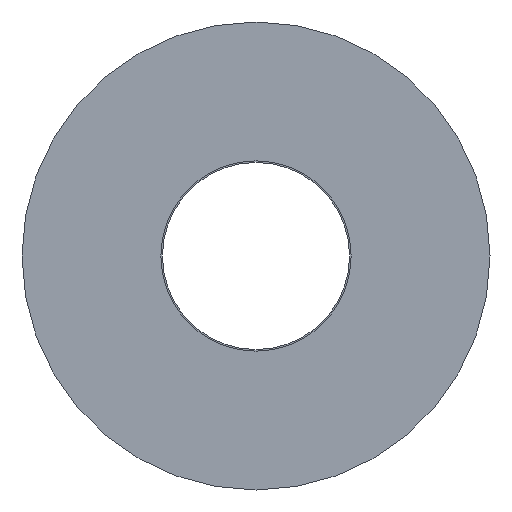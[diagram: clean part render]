
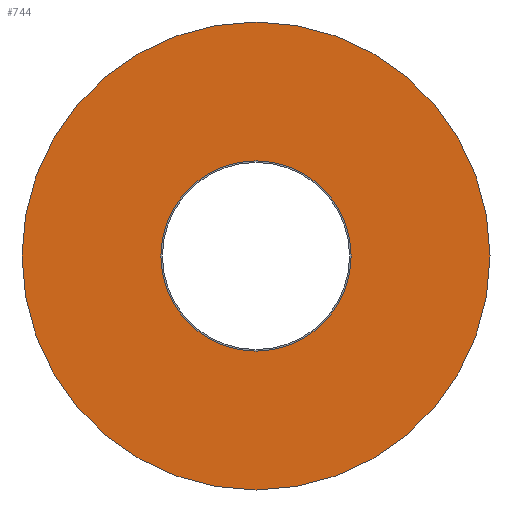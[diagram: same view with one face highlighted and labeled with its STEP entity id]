
A CAD part, left-side view. The second image highlights one B-rep face of the part: STEP entity #744.
In plain terms, the highlighted planar face has unit normal (-1, 0, 0).
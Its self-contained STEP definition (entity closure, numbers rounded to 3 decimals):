
#130=CARTESIAN_POINT('',(0.0,6.1,0.0));
#131=VERTEX_POINT('',#130);
#140=CARTESIAN_POINT('',(0.0,-6.1,0.));
#141=VERTEX_POINT('',#140);
#142=CARTESIAN_POINT('',(0.0,0.0,0.0));
#143=DIRECTION('',(1.0,0.0,0.0));
#144=DIRECTION('',(0.0,1.0,0.0));
#145=AXIS2_PLACEMENT_3D('',#142,#143,#144);
#146=CIRCLE('',#145,6.1);
#147=EDGE_CURVE('',#141,#131,#146,.T.);
#214=CARTESIAN_POINT('',(0.,15.0,0.0));
#215=VERTEX_POINT('',#214);
#224=CARTESIAN_POINT('',(0.,-15.0,0.));
#225=VERTEX_POINT('',#224);
#226=CARTESIAN_POINT('',(0.,0.0,0.0));
#227=DIRECTION('',(1.0,0.0,0.0));
#228=DIRECTION('',(0.0,1.0,0.0));
#229=AXIS2_PLACEMENT_3D('',#226,#227,#228);
#230=CIRCLE('',#229,15.0);
#231=EDGE_CURVE('',#215,#225,#230,.T.);
#645=CARTESIAN_POINT('',(0.,0.0,0.0));
#646=DIRECTION('',(1.0,0.0,0.0));
#647=DIRECTION('',(0.0,1.0,0.0));
#648=AXIS2_PLACEMENT_3D('',#645,#646,#647);
#649=CIRCLE('',#648,15.0);
#650=EDGE_CURVE('',#225,#215,#649,.T.);
#721=CARTESIAN_POINT('',(0.0,0.0,0.0));
#722=DIRECTION('',(1.0,0.0,0.0));
#723=DIRECTION('',(0.0,1.0,0.0));
#724=AXIS2_PLACEMENT_3D('',#721,#722,#723);
#725=CIRCLE('',#724,6.1);
#726=EDGE_CURVE('',#131,#141,#725,.T.);
#731=CARTESIAN_POINT('',(0.,10.55,0.0));
#732=DIRECTION('',(-1.0,0.0,0.0));
#733=DIRECTION('',(0.0,0.0,1.0));
#734=AXIS2_PLACEMENT_3D('',#731,#732,#733);
#735=PLANE('',#734);
#736=ORIENTED_EDGE('',*,*,#231,.F.);
#737=ORIENTED_EDGE('',*,*,#650,.F.);
#738=EDGE_LOOP('',(#736,#737));
#739=FACE_OUTER_BOUND('',#738,.T.);
#740=ORIENTED_EDGE('',*,*,#726,.T.);
#741=ORIENTED_EDGE('',*,*,#147,.T.);
#742=EDGE_LOOP('',(#740,#741));
#743=FACE_BOUND('',#742,.T.);
#744=ADVANCED_FACE('',(#739,#743),#735,.T.);
